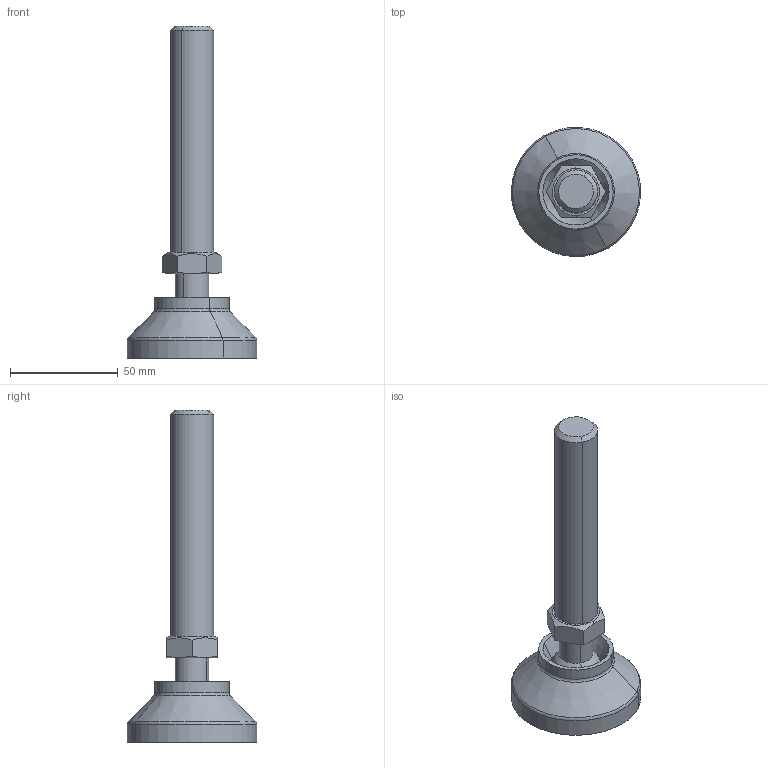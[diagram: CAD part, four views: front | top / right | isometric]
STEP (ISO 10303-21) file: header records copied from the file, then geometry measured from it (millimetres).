
FILE_DESCRIPTION(('CATIA V5 STEP Exchange'),'2;1');
FILE_NAME('C:\Users\ALI OZGUN\Desktop\alhan\ARTICULATED_FEET-PABUCLAR\501602615.stp','2017-09-21T11:53:55+00:00',('none'),('none'),'CATIA Version 5 Release 21 GA (IN-10)','CATIA V5 STEP AP203','none');
FILE_SCHEMA(('CONFIG_CONTROL_DESIGN'));
Length unit declared in the file: millimetre
Products named in the file (1): 501602615
Bounding box: 59.98 x 59.98 x 154 mm (x, y, z)
Volume: 75400.8 mm3; surface area: 24219.5 mm2
Topology: 2 solids, 2 shells, 96 faces, 264 edges, 176 vertices
Faces by surface type: plane 44, cylinder 22, cone 20, sphere 6, torus 4
Entity records: 3114 total; most frequent: CARTESIAN_POINT 983, ORIENTED_EDGE 520, DIRECTION 280, EDGE_CURVE 260, VERTEX_POINT 176, AXIS2_PLACEMENT_3D 147, EDGE_LOOP 104, CIRCLE 100
